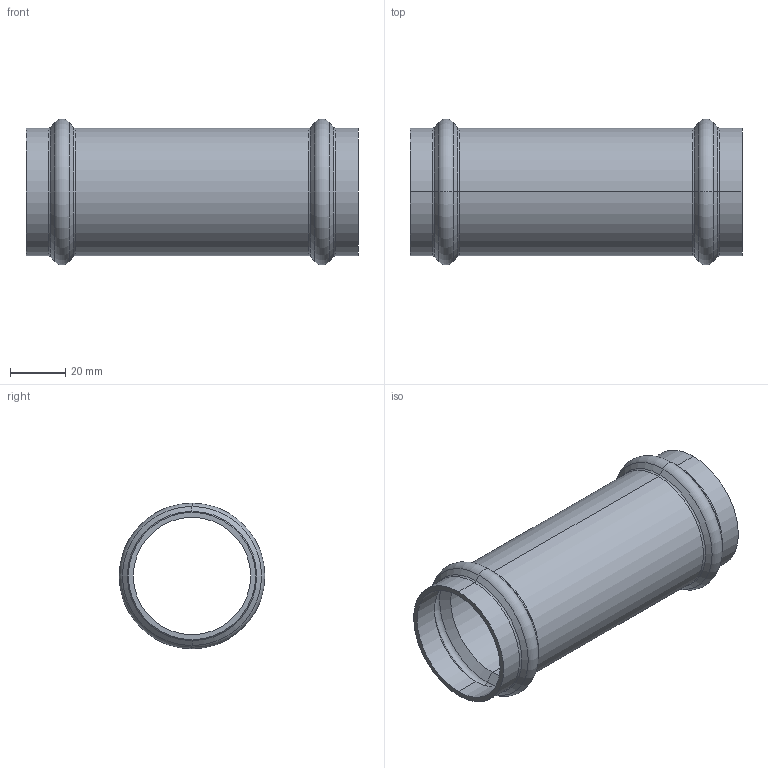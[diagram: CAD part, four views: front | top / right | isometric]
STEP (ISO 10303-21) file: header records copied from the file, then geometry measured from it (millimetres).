
FILE_DESCRIPTION (( 'STEP AP203' ), '1' );
FILE_NAME ('SP5275 42.STEP', '2017-04-24T09:23:30', ( '' ), ( '' ), 'SwSTEP 2.0', 'SolidWorks 2016', '' );
FILE_SCHEMA (( 'CONFIG_CONTROL_DESIGN' ));
Length unit declared in the file: millimetre
Products named in the file (1): SP5275 42
Bounding box: 120 x 52.7 x 52.7 mm (x, y, z)
Volume: 30485.9 mm3; surface area: 36063.3 mm2
Topology: 1 solids, 1 shells, 46 faces, 92 edges, 48 vertices
Faces by surface type: torus 16, cone 16, cylinder 12, plane 2
Entity records: 1261 total; most frequent: DIRECTION 250, CARTESIAN_POINT 187, ORIENTED_EDGE 184, AXIS2_PLACEMENT_3D 111, EDGE_CURVE 92, CIRCLE 64, VERTEX_POINT 48, EDGE_LOOP 48
